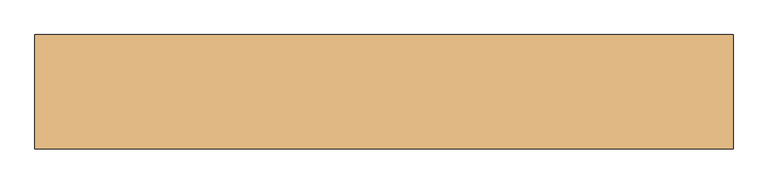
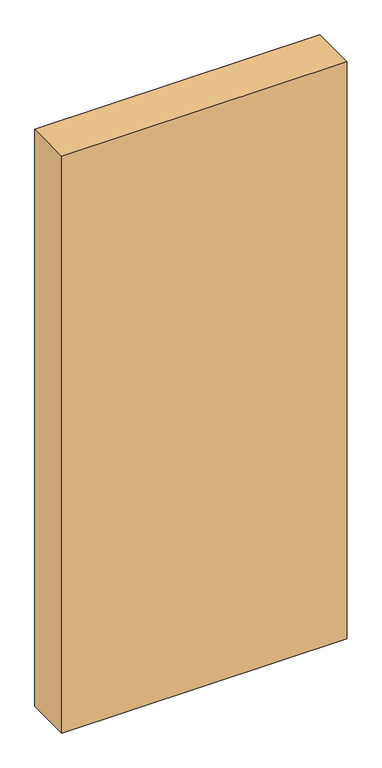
"""IFC4 building model written with IfcOpenShell, lengths in millimetres: door geometry, Dr_Проем-Простой : ДВ."""

from ifc_helpers import new_model, si_unit, frame, origin, place, context, project, spatial, polyline, outline, extrude, source, transform, mapped, element, save


def door_e8dee3c7(model_context):
    return source(origin(), model_context, "Body", "SweptSolid", [
        extrude(outline(polyline([(755.3230163, -90.0), (-344.6769837, -90.0), (-344.6769837, 90.0), (755.3230163, 90.0), (755.3230163, -90.0)])), frame((0.0, 0.0, -250.0), z_axis=(0.0, 0.0, 1.0), x_axis=(1.0, 0.0, 0.0)), (0.0, 0.0, 1.0), 2350.0),
    ])


if __name__ == "__main__":
    model = new_model("IFC4")
    model_context = context("Model", 3, world=origin())
    ifc_project = project(units=[si_unit("LENGTHUNIT", "METRE", prefix="MILLI")], contexts=[model_context])
    site = spatial("IfcSite", under=ifc_project)
    building = spatial("IfcBuilding", under=site)
    placement = place(None, origin())
    door_shape = door_e8dee3c7(model_context)
    element("IfcDoor", 1, ObjectType="Dr_Проем-Простой : ДВ", at=placement, inside=building, context=model_context, shape_type="MappedRepresentation", body=[
        mapped(door_shape, transform((0.0, 0.0, 0.0), x_axis=(1.0, 0.0, 0.0), y_axis=(0.0, 1.0, 0.0), z_axis=(0.0, 0.0, 1.0))),
    ])
    save(model, "model.ifc")
